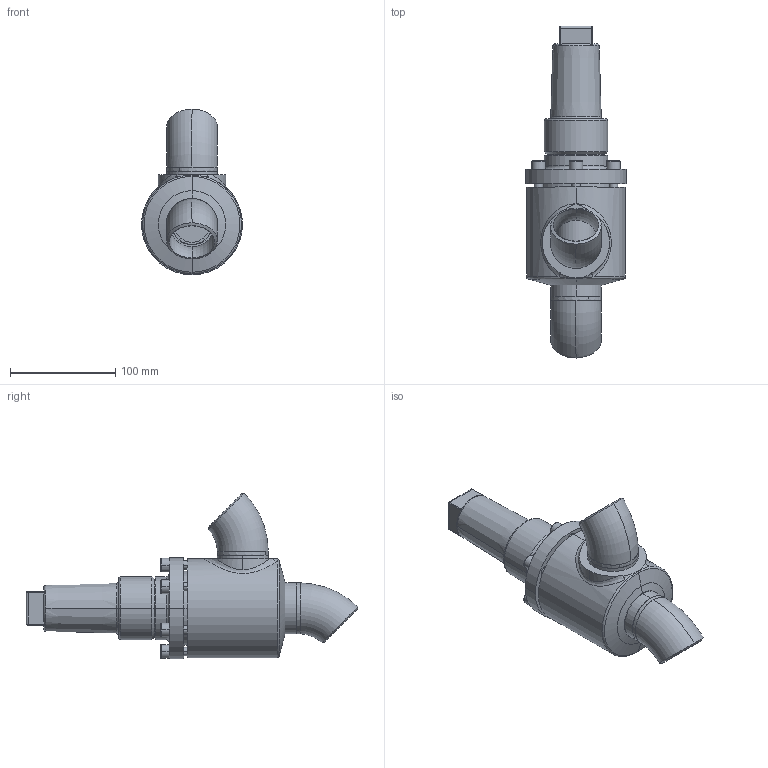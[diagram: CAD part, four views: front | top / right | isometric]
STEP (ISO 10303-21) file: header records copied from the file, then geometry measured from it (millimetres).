
FILE_DESCRIPTION (( 'STEP AP214' ), '1' );
FILE_NAME ('HRAB12300D14-DN040_R1_PS40.STEP', '2006-04-27T11:54:43', ( 'Herr Grams' ), ( 'AWP GmbH' ), 'SwSTEP 2.0', 'SolidWorks 2002296', '' );
FILE_SCHEMA (( 'AUTOMOTIVE_DESIGN' ));
Length unit declared in the file: millimetre
Products named in the file (10): HRAB12300D14-DN040_R1_PS40; Kappe16402_DN040-65_Standard; Gehäuse-kpl16300-DN040_R1_Standard; Gehäuse16300-DN040_Standard; Rohrbogen 45°_R1-Fase_Rohrbogen-DN040-45°; bead16300-Geh-040-2_Standard; bead16300-Geh-040-1_Standard; AVB16300E15_Deck+Schr-DN40-50_Standard; Deckel16300E15-DN40-50_Standard; Zylinderschraube-DIN912_M 8x 25
Assembly tree (15 placements, depth 3):
  HRAB12300D14-DN040_R1_PS40
    AVB16300E15_Deck+Schr-DN40-50_Standard
      Zylinderschraube-DIN912_M 8x 25  x6
      Deckel16300E15-DN40-50_Standard
    Gehäuse-kpl16300-DN040_R1_Standard
      Gehäuse16300-DN040_Standard
      bead16300-Geh-040-2_Standard
      Rohrbogen 45°_R1-Fase_Rohrbogen-DN040-45°  x2
      bead16300-Geh-040-1_Standard
    Kappe16402_DN040-65_Standard
Bounding box: 96 x 315.38 x 157.38 mm (x, y, z)
Volume: 720437.7 mm3; surface area: 167370.1 mm2
Topology: 13 solids, 13 shells, 287 faces, 643 edges, 408 vertices
Faces by surface type: plane 98, cylinder 97, cone 48, torus 33, bspline 11
Entity records: 33908 total; most frequent: CARTESIAN_POINT 28918, DIRECTION 934, ORIENTED_EDGE 862, EDGE_CURVE 431, AXIS2_PLACEMENT_3D 397, VERTEX_POINT 274, EDGE_LOOP 225, CIRCLE 201
